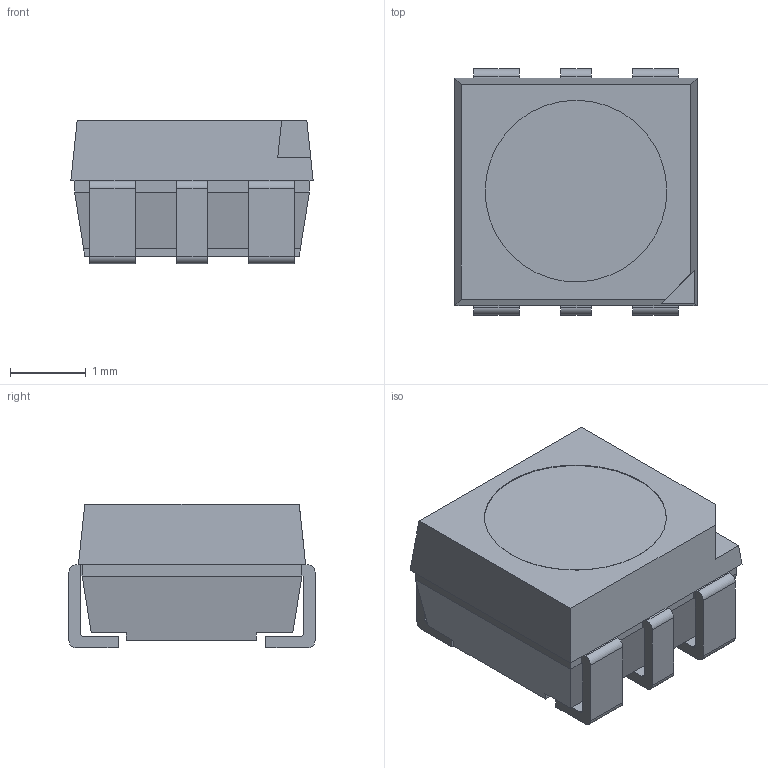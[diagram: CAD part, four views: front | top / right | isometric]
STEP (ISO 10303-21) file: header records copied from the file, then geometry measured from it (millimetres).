
FILE_DESCRIPTION(('STEP AP203'),'1');
FILE_NAME('C:/Users/chee-cheong.chan/Desktop/New folder/D6A-SKG.stp','2019-09-20T07:40:12',(' '),(' '),'Spatial InterOp 3D',' ',' ');
FILE_SCHEMA(('CONFIG_CONTROL_DESIGN'));
Length unit declared in the file: millimetre
Products named in the file (1): 1
Bounding box: 3.2 x 3.25 x 1.9 mm (x, y, z)
Volume: 15.9 mm3; surface area: 51.7 mm2
Topology: 1 solids, 1 shells, 124 faces, 334 edges, 213 vertices
Faces by surface type: plane 100, cylinder 20, cone 4
Entity records: 3864 total; most frequent: CARTESIAN_POINT 672, ORIENTED_EDGE 668, DIRECTION 634, EDGE_CURVE 334, LINE 284, VECTOR 284, VERTEX_POINT 213, AXIS2_PLACEMENT_3D 175
